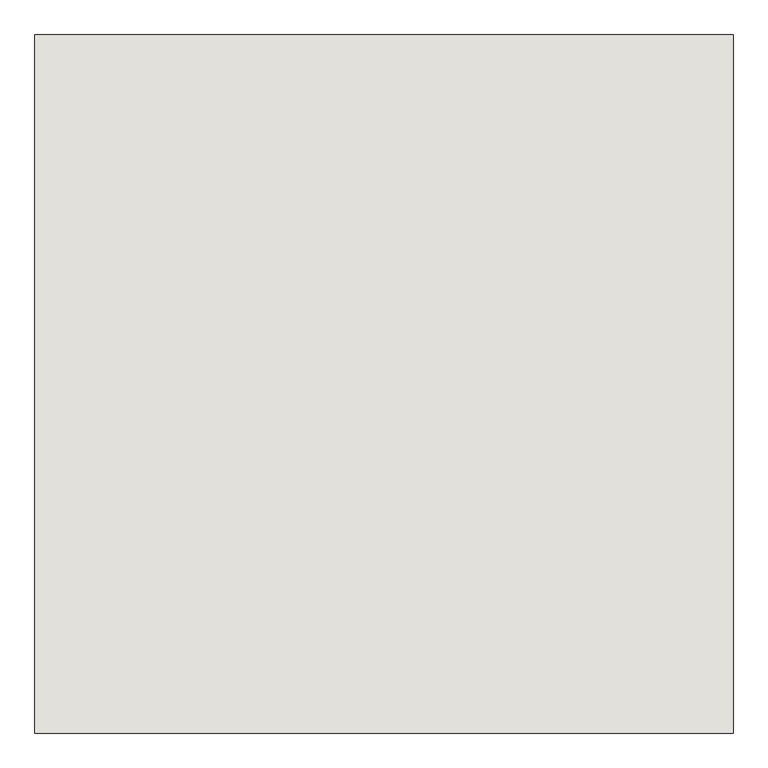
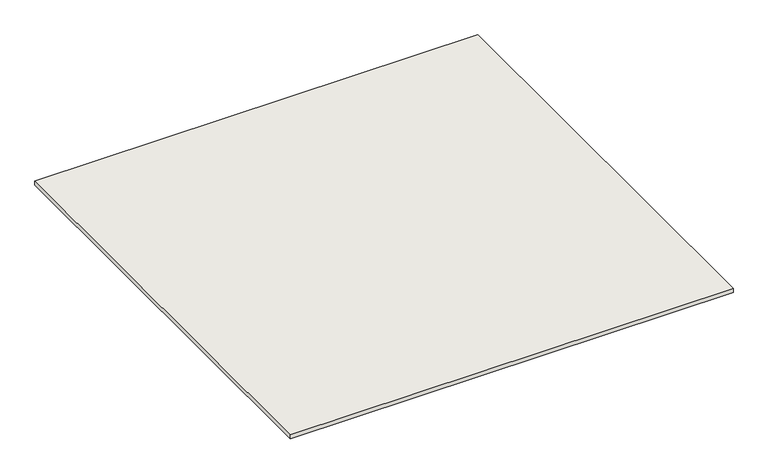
"""IFC4 building model written with IfcOpenShell, lengths in millimetres: wall geometry, Muestra 1m2_320 Liso : Muestra 1m2_320 Liso."""

from ifc_helpers import new_model, si_unit, frame, origin, place, context, project, spatial, polyline, outline, extrude, source, transform, mapped, element, save


def wall_9159aa23(model_context):
    return source(origin(), model_context, "Body", "SweptSolid", [
        extrude(outline(polyline([(48128.4104473, 5796.316465), (48128.4104473, 6796.316465), (49128.4104473, 6796.316465), (49128.4104473, 5796.316465), (48128.4104473, 5796.316465)])), frame((0.0, 0.0, -0.4), z_axis=(0.0, 0.0, 1.0), x_axis=(1.0, 0.0, 0.0)), (0.0, 0.0, 1.0), 9.0),
    ])


if __name__ == "__main__":
    model = new_model("IFC4")
    model_context = context("Model", 3, world=origin())
    ifc_project = project(units=[si_unit("LENGTHUNIT", "METRE", prefix="MILLI")], contexts=[model_context])
    site = spatial("IfcSite", under=ifc_project)
    building = spatial("IfcBuilding", under=site)
    placement = place(None, origin())
    wall_shape = wall_9159aa23(model_context)
    element("IfcWall", 1, ObjectType="Muestra 1m2_320 Liso : Muestra 1m2_320 Liso", at=placement, inside=building, context=model_context, shape_type="MappedRepresentation", body=[
        mapped(wall_shape, transform((0.0, 0.0, 0.0), x_axis=(1.0, 0.0, 0.0), y_axis=(0.0, 1.0, 0.0), z_axis=(0.0, 0.0, 1.0))),
    ])
    save(model, "model.ifc")
